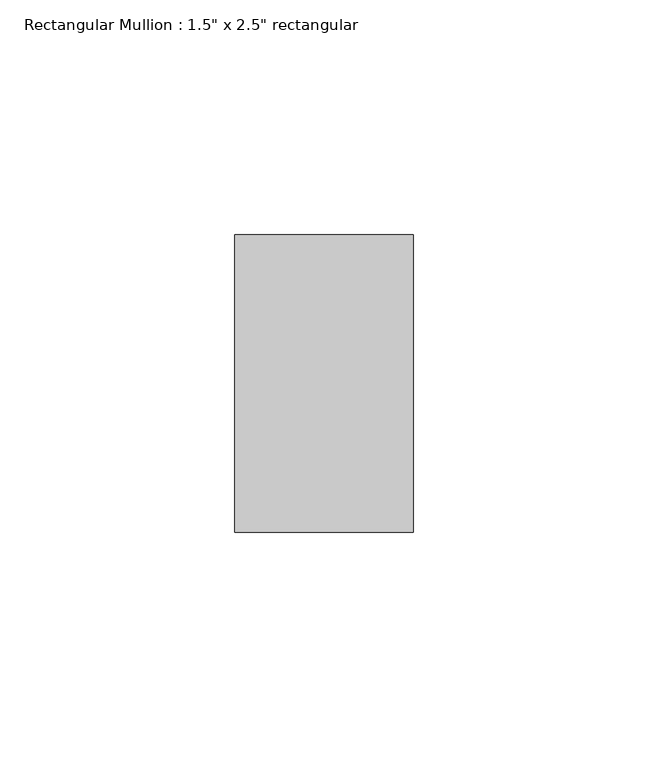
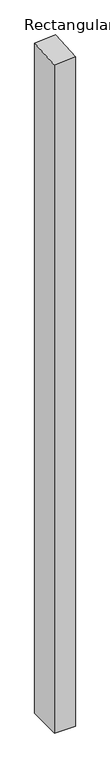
"""IFC4 building model written with IfcOpenShell, lengths in millimetres: member geometry."""

import ifcopenshell
import ifcopenshell.guid

model = None  # the IFC model being written
_history = None  # IfcOwnerHistory: only IFC2X3 demands one
_inside = {}  # id of a spatial element -> (the spatial element, [elements in it])
_under = {}  # id of a project, library or spatial element -> (it, [spatial elements below it])
_declared = {}  # id of a project -> (the project, [libraries it declares])
_typed = {}  # id of a type object -> (the type object, [elements of that type])
_made_of = {}  # id of a material, layer set ... -> (it, [elements and type objects made of it])


def new_model(schema):
    """Start an empty IFC model of exactly this schema.

    Asked for "IFC4X3", IfcOpenShell would pick the latest addendum, in which some entities
    have other attributes; the version numbers below select the first issue.
    IFC2X3 requires an IfcOwnerHistory on every rooted entity: one is made here for all.
    """
    global model, _history
    if schema == "IFC4X3":
        model = ifcopenshell.file(schema_version=(4, 3, 0, 0))
    else:
        model = ifcopenshell.file(schema=schema)
    _inside.clear()
    _under.clear()
    _declared.clear()
    _typed.clear()
    _made_of.clear()
    _history = None
    if model.schema == "IFC2X3":
        org = make("IfcOrganization", Name="unknown")
        user = make(
            "IfcPersonAndOrganization",
            ThePerson=make("IfcPerson", FamilyName="unknown"),
            TheOrganization=org,
        )
        app = make(
            "IfcApplication",
            ApplicationDeveloper=org,
            Version="unknown",
            ApplicationFullName="unknown",
            ApplicationIdentifier="unknown",
        )
        _history = make(
            "IfcOwnerHistory",
            OwningUser=user,
            OwningApplication=app,
            ChangeAction="ADDED",
            CreationDate=0,
        )
    return model


def make(cls, **values):
    """One entity of the class cls with the attributes given. An attribute that is None is left unset."""
    return model.create_entity(
        cls, **{name: value for name, value in values.items() if value is not None}
    )


def rooted(cls, **values):
    """An entity with a GlobalId (a new one), such as an element, a storey or a relation."""
    return make(cls, GlobalId=ifcopenshell.guid.new(), OwnerHistory=_history, **values)


def si_unit(unit_type, name, prefix=None):
    """IfcSIUnit, for example si_unit("LENGTHUNIT", "METRE", prefix="MILLI")."""
    return make("IfcSIUnit", UnitType=unit_type, Prefix=prefix, Name=name)


def assignment(units):
    """IfcUnitAssignment: the units of a project."""
    return None if units is None else make("IfcUnitAssignment", Units=units)


def point(xyz):
    """IfcCartesianPoint."""
    return None if xyz is None else make("IfcCartesianPoint", Coordinates=xyz)


def direction(xyz):
    """IfcDirection."""
    return None if xyz is None else make("IfcDirection", DirectionRatios=xyz)


def frame(location, z_axis=None, x_axis=None):
    """IfcAxis2Placement3D, a coordinate frame: its origin and axes. An axis left out is left unset."""
    return make(
        "IfcAxis2Placement3D",
        Location=point(location),
        Axis=direction(z_axis),
        RefDirection=direction(x_axis),
    )


def origin():
    """The frame at (0, 0, 0) with its axes left unset."""
    return frame((0.0, 0.0, 0.0))


def place(relative_to, where):
    """IfcLocalPlacement: puts the frame where relative to a parent placement (None: the world)."""
    return make(
        "IfcLocalPlacement", PlacementRelTo=relative_to, RelativePlacement=where
    )


def context(
    kind, dimensions, precision=None, world=None, true_north=None, identifier=None
):
    """IfcGeometricRepresentationContext, for example the 3D "Model" context."""
    return make(
        "IfcGeometricRepresentationContext",
        ContextIdentifier=identifier,
        ContextType=kind,
        CoordinateSpaceDimension=dimensions,
        Precision=precision,
        WorldCoordinateSystem=world,
        TrueNorth=true_north,
    )


def project(units=None, contexts=None):
    """IfcProject with its units and contexts."""
    return rooted(
        "IfcProject",
        Name="project",
        RepresentationContexts=contexts,
        UnitsInContext=assignment(units),
    )


def spatial(cls, under=None, at=None, **own):
    """A site, building, storey or space (cls), placed at a placement, below another one or the project."""
    s = rooted(cls, ObjectPlacement=at, **own)
    if under is not None:
        _under.setdefault(under.id(), (under, []))[1].append(s)
    return s


def faces_of(points, faces, orient=None, outer=None):
    """IfcFace entities. A face is a list of loops; a loop is a list of indices into points, from 0.

    orient and outer hold one flag for each loop. By default every Orientation is true, the
    first loop of a face is its IfcFaceOuterBound and the others are IfcFaceBound.
    """
    made = []
    for i, loops in enumerate(faces):
        bounds = []
        for j, loop in enumerate(loops):
            is_outer = j == 0 if outer is None else outer[i][j]
            bounds.append(
                make(
                    "IfcFaceOuterBound" if is_outer else "IfcFaceBound",
                    Bound=make("IfcPolyLoop", Polygon=[points[k] for k in loop]),
                    Orientation=True if orient is None else orient[i][j],
                )
            )
        made.append(make("IfcFace", Bounds=bounds))
    return made


def faceted_brep(points, faces, orient=None, outer=None, voids=None):
    """IfcFacetedBrep: a solid bounded by flat faces; with voids (closed shells), ...WithVoids."""
    shared = [point(p) for p in points]
    hull = make("IfcClosedShell", CfsFaces=faces_of(shared, faces, orient, outer))
    if voids is None:
        return make("IfcFacetedBrep", Outer=hull)
    return make(
        "IfcFacetedBrepWithVoids",
        Outer=hull,
        Voids=[
            make(cls, CfsFaces=faces_of(shared, fs, o, b)) for cls, fs, o, b in voids
        ],
    )


def shape(context_of_items, identifier, shape_type, items):
    """IfcShapeRepresentation: the items that make up one representation, for example the "Body"."""
    return make(
        "IfcShapeRepresentation",
        ContextOfItems=context_of_items,
        RepresentationIdentifier=identifier,
        RepresentationType=shape_type,
        Items=items,
    )


def source(mapping_origin, context_of_items, identifier, shape_type, items):
    """IfcRepresentationMap: a shape defined once, which mapped items show again and again."""
    return make(
        "IfcRepresentationMap",
        MappingOrigin=mapping_origin,
        MappedRepresentation=shape(context_of_items, identifier, shape_type, items),
    )


def transform(
    local_origin,
    x_axis=None,
    y_axis=None,
    z_axis=None,
    scale=None,
    scale2=None,
    scale3=None,
    uniform=True,
):
    """IfcCartesianTransformationOperator3D, or its non-uniform kind. x_axis, y_axis, z_axis: its Axis1, 2, 3."""
    if uniform:
        return make(
            "IfcCartesianTransformationOperator3D",
            Axis1=direction(x_axis),
            Axis2=direction(y_axis),
            LocalOrigin=point(local_origin),
            Scale=scale,
            Axis3=direction(z_axis),
        )
    return make(
        "IfcCartesianTransformationOperator3DnonUniform",
        Axis1=direction(x_axis),
        Axis2=direction(y_axis),
        LocalOrigin=point(local_origin),
        Scale=scale,
        Axis3=direction(z_axis),
        Scale2=scale2,
        Scale3=scale3,
    )


def mapped(mapping_source, mapping_target):
    """IfcMappedItem: shows the shape of a source again, moved by a transform."""
    return make(
        "IfcMappedItem", MappingSource=mapping_source, MappingTarget=mapping_target
    )


def made_of(thing, what):
    """Note that an element or type object is made of a material, layer set ...; save() writes the relation."""
    if what is not None:
        _made_of.setdefault(what.id(), (what, []))[1].append(thing)
    return thing


def element(
    cls,
    number,
    at=None,
    inside=None,
    cuts=None,
    type_object=None,
    material=None,
    context=None,
    identifier="Body",
    shape_type=None,
    held_by="IfcProductDefinitionShape",
    body=None,
    shapes=None,
    **own,
):
    """One element of the class cls, such as IfcWall. Its Tag is "e" and its number.

    at: its placement. inside: the storey or other place that contains it. cuts: it is an
    opening in that element (IfcRelVoidsElement). A single representation is given by context,
    identifier, shape_type and body (its items); several are given by shapes. held_by: the class
    of the entity that holds the representations. save() writes the other relations.
    """
    e = rooted(cls, Tag="e%d" % number, ObjectPlacement=at, **own)
    if body is not None:
        shapes = [shape(context, identifier, shape_type, body)]
    if shapes is not None:
        e.Representation = make(held_by, Representations=shapes)
    if inside is not None:
        _inside.setdefault(inside.id(), (inside, []))[1].append(e)
    if cuts is not None:
        rooted(
            "IfcRelVoidsElement", RelatingBuildingElement=cuts, RelatedOpeningElement=e
        )
    if type_object is not None:
        _typed.setdefault(type_object.id(), (type_object, []))[1].append(e)
    return made_of(e, material)


def aggregate(whole, parts):
    """IfcRelAggregates: a whole, such as a stair, and the parts it consists of."""
    return rooted("IfcRelAggregates", RelatingObject=whole, RelatedObjects=parts)


def save(model, path):
    """Write the relations noted so far, then the file.

    IfcRelAggregates (storeys below a building ...), IfcRelContainedInSpatialStructure (elements
    in a storey), IfcRelDefinesByType, IfcRelAssociatesMaterial and IfcRelDeclares: one each for
    every whole, place, type object, material and project.
    """
    for whole, parts in _under.values():
        aggregate(whole, parts)
    for where, things in _inside.values():
        rooted(
            "IfcRelContainedInSpatialStructure",
            RelatedElements=things,
            RelatingStructure=where,
        )
    for kind, things in _typed.values():
        rooted("IfcRelDefinesByType", RelatedObjects=things, RelatingType=kind)
    for what, things in _made_of.values():
        rooted("IfcRelAssociatesMaterial", RelatedObjects=things, RelatingMaterial=what)
    for by, libraries in _declared.values():
        rooted("IfcRelDeclares", RelatingContext=by, RelatedDefinitions=libraries)
    model.write(path)


def member_76298f12(model_context):
    return source(origin(), model_context, "Body", "Brep", [
        faceted_brep([(19.05, 31.75, -1304.0209234), (19.05, -31.75, -1304.0209234), (-19.05, -31.75, -1304.0209234), (-19.05, 31.75, -1304.0209234), (-19.05, 31.75, 0.8926), (19.05, 31.75, 3.6084412), (-19.05, -31.75, -3.6084412), (19.05, -31.75, -0.8926)], [[[0, 1, 2, 3]], [[4, 5, 0, 3]], [[6, 4, 3, 2]], [[7, 6, 2, 1]], [[5, 7, 1, 0]], [[5, 4, 6, 7]]]),
    ])


if __name__ == "__main__":
    model = new_model("IFC4")
    model_context = context("Model", 3, world=origin())
    ifc_project = project(units=[si_unit("LENGTHUNIT", "METRE", prefix="MILLI")], contexts=[model_context])
    site = spatial("IfcSite", under=ifc_project)
    building = spatial("IfcBuilding", under=site)
    placement = place(None, origin())
    member_shape = member_76298f12(model_context)
    element("IfcMember", 1, ObjectType="Rectangular Mullion : 1.5\" x 2.5\" rectangular", at=placement, inside=building, context=model_context, shape_type="MappedRepresentation", body=[
        mapped(member_shape, transform((0.0, 0.0, 0.0), x_axis=(1.0, 0.0, 0.0), y_axis=(0.0, 1.0, 0.0), z_axis=(0.0, 0.0, 1.0))),
    ])
    save(model, "model.ifc")
